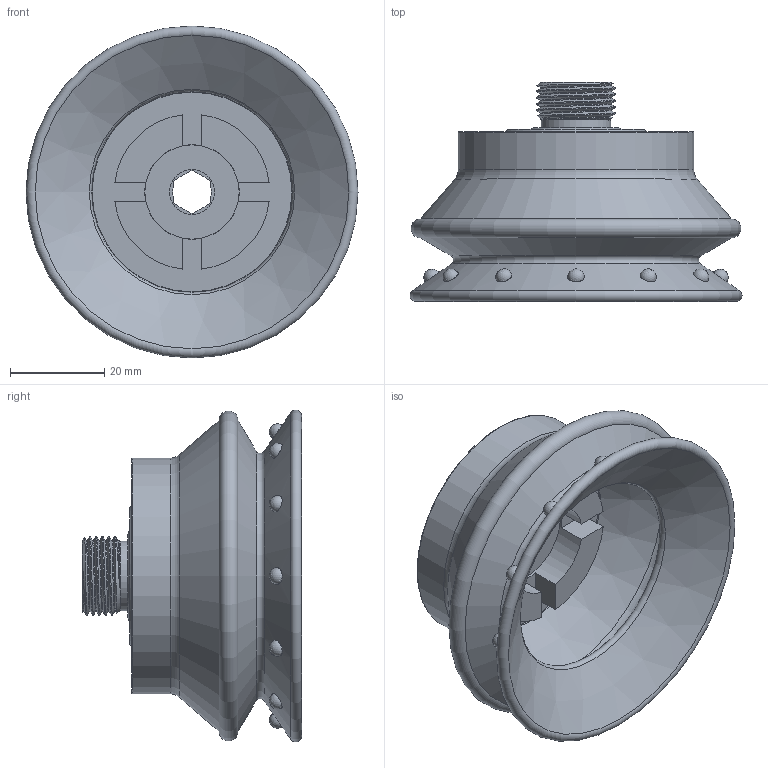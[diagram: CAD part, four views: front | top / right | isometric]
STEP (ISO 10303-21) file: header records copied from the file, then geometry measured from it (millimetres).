
FILE_DESCRIPTION (( 'STEP AP203' ), '1' );
FILE_NAME ('97C 70PU A.STEP', '2022-04-14T08:08:34', ( '' ), ( '' ), 'SwSTEP 2.0', 'SolidWorks 2021', '' );
FILE_SCHEMA (( 'CONFIG_CONTROL_DESIGN' ));
Length unit declared in the file: millimetre
Products named in the file (1): 97C 70PU A
Bounding box: 70.44 x 46.5 x 70.44 mm (x, y, z)
Volume: 40201.9 mm3; surface area: 25674.7 mm2
Topology: 3 solids, 3 shells, 95 faces, 246 edges, 162 vertices
Faces by surface type: plane 36, cylinder 23, cone 12, sphere 12, torus 9, bspline 3
Full cylindrical faces by diameter (mm): 9.5 x1, 10 x1, 14.7 x1, 20 x1, 21.1 x1, 27 x2, 30 x4, 50 x1
Entity records: 5741 total; most frequent: CARTESIAN_POINT 3769, DIRECTION 386, ORIENTED_EDGE 336, EDGE_CURVE 168, AXIS2_PLACEMENT_3D 162, EDGE_LOOP 147, VERTEX_POINT 129, FACE_OUTER_BOUND 113
